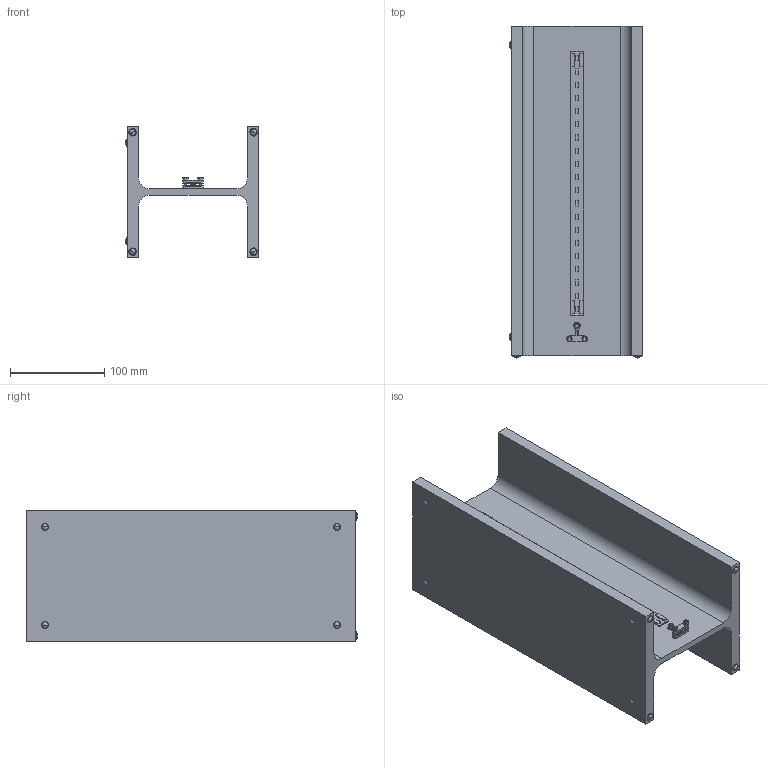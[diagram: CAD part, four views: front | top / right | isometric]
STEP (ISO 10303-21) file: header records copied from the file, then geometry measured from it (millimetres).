
FILE_DESCRIPTION (( 'STEP AP203' ), '1' );
FILE_NAME ('3d_MAIS PLUS QUE CELA JE NE PEUX PAS.STEP', '2016-09-14T10:10:48', ( '' ), ( '' ), 'SwSTEP 2.0', 'SolidWorks 2016', '' );
FILE_SCHEMA (( 'CONFIG_CONTROL_DESIGN' ));
Length unit declared in the file: millimetre
Products named in the file (9): occhiello D3; rondella dentellata d 3; vite tcei m3x12; vite tcei m3x 08; 021FRA000000; 3d_MAIS PLUS QUE CELA JE NE PEUX PAS; 010RIC800100_CORPO HEB 140 L.350; 093COM000083_Striscia LED Alterah 8W 220V 2700袁; 081COM000300
Assembly tree (17 placements, depth 2):
  3d_MAIS PLUS QUE CELA JE NE PEUX PAS
    010RIC800100_CORPO HEB 140 L.350
    093COM000083_Striscia LED Alterah 8W 220V 2700袁
    081COM000300  x2
    occhiello D3
    rondella dentellata d 3
    vite tcei m3x12  x2
    vite tcei m3x 08
    021FRA000000  x8
Bounding box: 142.2 x 352.2 x 140 mm (x, y, z)
Volume: 1510424.2 mm3; surface area: 302382.6 mm2
Topology: 17 solids, 17 shells, 444 faces, 1093 edges, 724 vertices
Faces by surface type: plane 302, cylinder 94, torus 22, sphere 16, cone 10
Entity records: 11143 total; most frequent: CARTESIAN_POINT 1919, ORIENTED_EDGE 1668, DIRECTION 1629, EDGE_CURVE 834, LINE 639, VECTOR 639, VERTEX_POINT 553, AXIS2_PLACEMENT_3D 495
